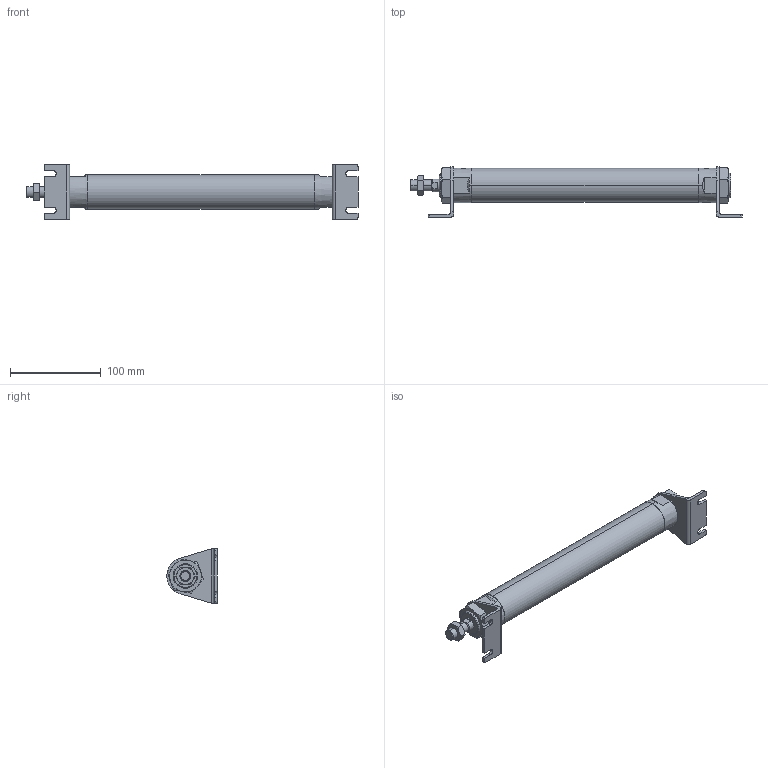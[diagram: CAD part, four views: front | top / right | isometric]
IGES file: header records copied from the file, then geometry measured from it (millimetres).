
Start section: SolidWorks IGES file using analytic representation for surfaces
Global section: file name: C:\Users\Toshiba\Desktop\J#2-32-200-L.IGS; native system: SolidWorks 2014; preprocessor: SolidWorks 2014; author: Toshiba; date: 160310.090136; units: millimetre
Bounding box: 365.2 x 55.5 x 60 mm (x, y, z)
Surface area: 63913.6 mm2 (no closed solid volume)
Topology: 0 solids, 0 shells, 170 faces, 2728 edges, 2724 vertices
Faces by surface type: bspline 107, revolution 63
